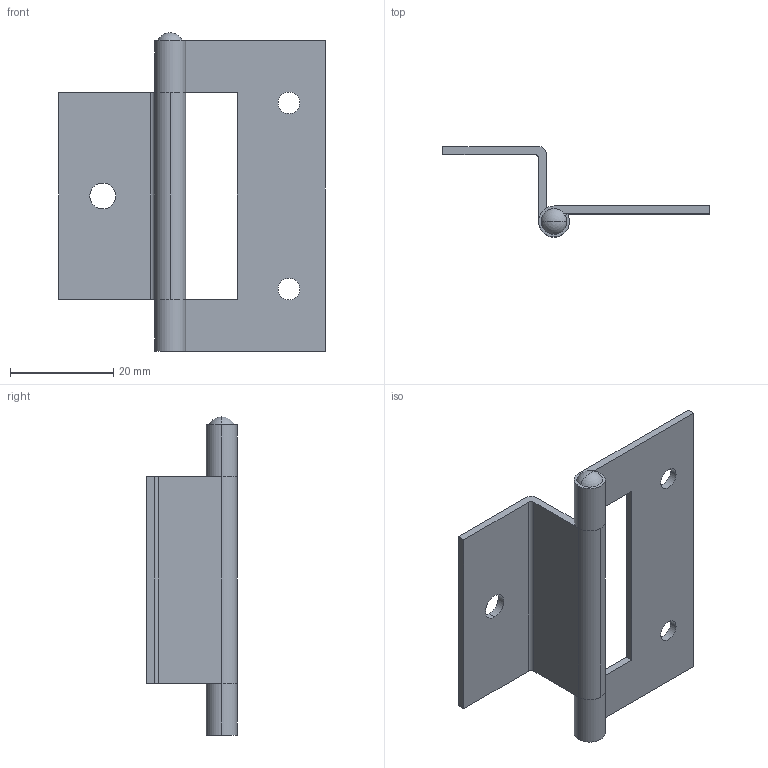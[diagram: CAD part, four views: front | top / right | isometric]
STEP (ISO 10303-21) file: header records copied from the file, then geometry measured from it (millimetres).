
FILE_DESCRIPTION((''),'2;1');
FILE_NAME('6031.02.stp','2015-07-17T14:34:26',(''),(''),'Mechanical Desktop 2006','Mechanical Desktop 2006',', , ');
FILE_SCHEMA(('CONFIG_CONTROL_DESIGN'));
Length unit declared in the file: millimetre
Products named in the file (1): 6031.02
Bounding box: 51.5 x 17.5 x 61.55 mm (x, y, z)
Volume: 5306.5 mm3; surface area: 7149.5 mm2
Topology: 2 solids, 2 shells, 50 faces, 137 edges, 90 vertices
Faces by surface type: cylinder 26, plane 20, sphere 2, cone 2
Entity records: 1697 total; most frequent: DIRECTION 298, CARTESIAN_POINT 274, ORIENTED_EDGE 268, EDGE_CURVE 134, AXIS2_PLACEMENT_3D 113, VERTEX_POINT 89, VECTOR 72, LINE 72
